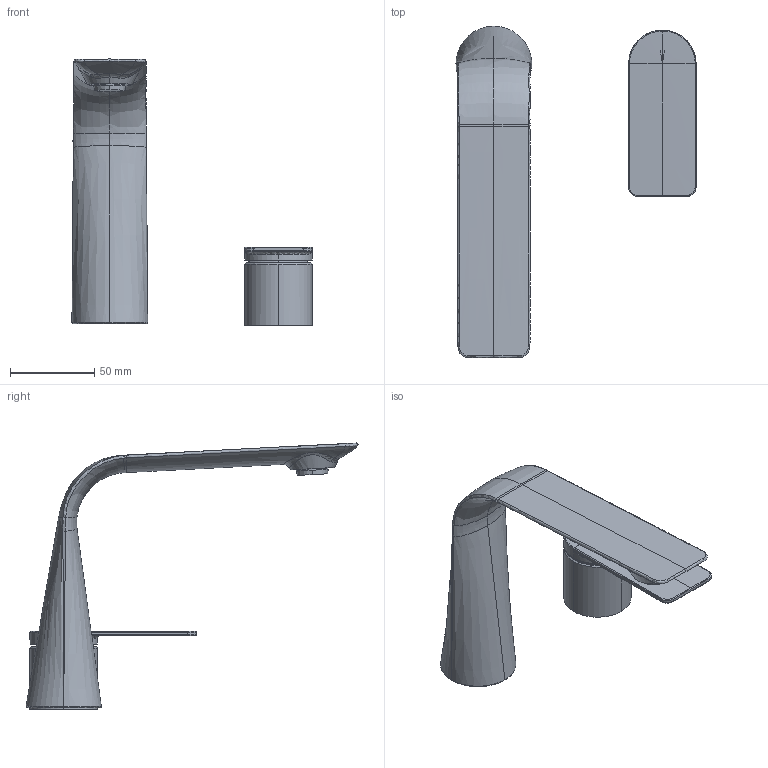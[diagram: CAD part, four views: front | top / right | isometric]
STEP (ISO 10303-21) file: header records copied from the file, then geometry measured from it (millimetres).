
FILE_DESCRIPTION(/* description */ (''),/* implementation_level */ '2;1');
FILE_NAME(/* name */ 'a',/* time_stamp */ '2019-08-29T14:15:42+02:00',/* author */ (''),/* organization */ (''),/* preprocessor_version */ 'ST-DEVELOPER v15',/* originating_system */ '',/* authorisation */ '');
FILE_SCHEMA (('AUTOMOTIVE_DESIGN'));
Length unit declared in the file: millimetre
Products named in the file (1): Document
Bounding box: 142.52 x 197.02 x 157.86 mm (x, y, z)
Volume: 221308.5 mm3; surface area: 56135.7 mm2
Topology: 5 solids, 6 shells, 598 faces, 1504 edges, 880 vertices
Faces by surface type: bspline 503, plane 95
Entity records: 28767 total; most frequent: CARTESIAN_POINT 20615, ORIENTED_EDGE 2907, EDGE_CURVE 1459, VERTEX_POINT 880, B_SPLINE_CURVE_WITH_KNOTS 714, EDGE_LOOP 614, ADVANCED_FACE 598, FACE_OUTER_BOUND 598
